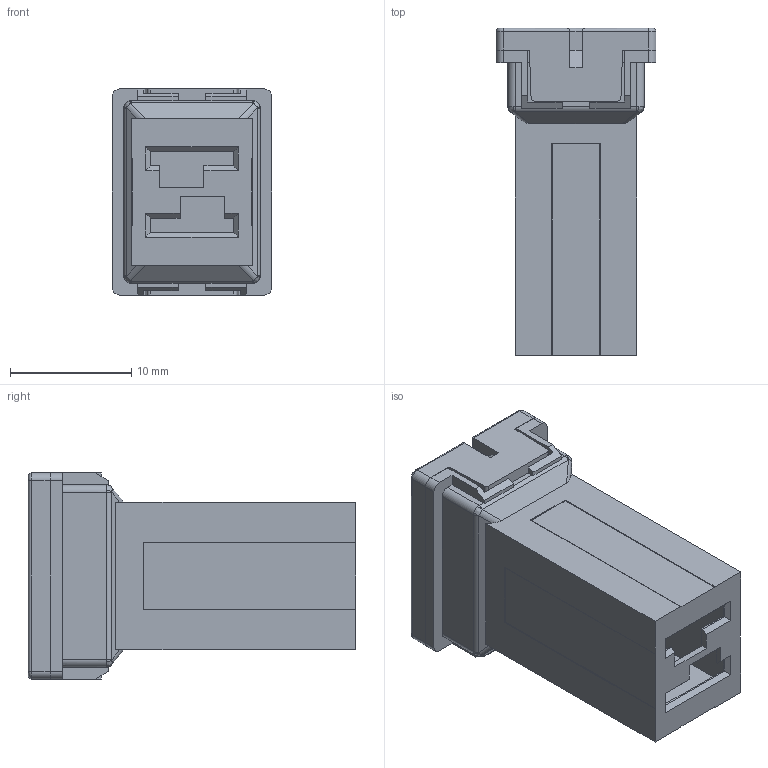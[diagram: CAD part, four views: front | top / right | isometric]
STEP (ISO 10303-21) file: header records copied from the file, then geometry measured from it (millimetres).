
FILE_DESCRIPTION(/* description */ (''),/* implementation_level */ '2;1');
FILE_NAME(/* name */ 'C:\Users\Hani\Desktop\work\TFLS\TFLS.stp',/* time_stamp */ '2021-10-16T16:47:40-07:00',/* author */ ('Hani'),/* organization */ (''),/* preprocessor_version */ 'ST-DEVELOPER v17',/* originating_system */ 'Autodesk Inventor 2019',/* authorisation */ '');
FILE_SCHEMA (('AUTOMOTIVE_DESIGN { 1 0 10303 214 3 1 1 }'));
Length unit declared in the file: inch
Products named in the file (3): FMX; FMX_1; cover
Assembly tree (2 placements, depth 2):
  FMX
    FMX_1
    cover
Bounding box: 13.2 x 27 x 17 mm (x, y, z)
Volume: 1353.3 mm3; surface area: 3275 mm2
Topology: 2 solids, 2 shells, 349 faces, 944 edges, 608 vertices
Faces by surface type: plane 212, bspline 79, cylinder 54, torus 4
Entity records: 11694 total; most frequent: CARTESIAN_POINT 3206, ORIENTED_EDGE 1888, DIRECTION 1476, EDGE_CURVE 944, LINE 694, VECTOR 694, VERTEX_POINT 608, AXIS2_PLACEMENT_3D 391
